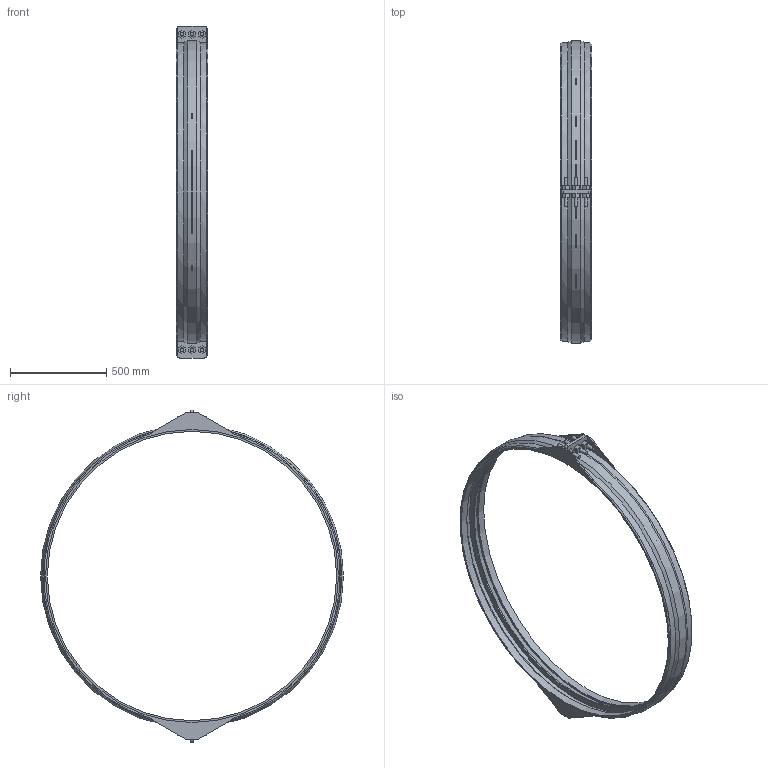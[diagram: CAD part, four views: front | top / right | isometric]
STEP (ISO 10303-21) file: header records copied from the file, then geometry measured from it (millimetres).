
FILE_DESCRIPTION(/* description */ ('VIC SS RESTRAINED COUPLING STYLE 234S (FLEX) (BRS)','CAx-IF Rec.Pracs.---Representation and Presentation of Product Manufacturing Information (PMI)---4.0---2014-10-13'),/* implementation_level */ '2;1');
FILE_NAME(/* name */ 'C:\Users\kkamble\AppData\Roaming\Autodesk\ApplicationPlugins\Back Up\Victaulic_VBSP_Coupling Flexible Restrained_Style 234S (BRS)\Victaulic_VBSP_Coupling Flexible Restrained_Style 234S (BRS)_50psi_60 (1500).stp',/* time_stamp */ '2020-09-22T18:42:37+05:00',/* author */ ('Vjadhav'),/* organization */ ('Victaulic'),/* preprocessor_version */ 'ST-DEVELOPER v17.2',/* originating_system */ 'Autodesk Inventor 2019',/* authorisation */ '');
FILE_SCHEMA (('AP242_MANAGED_MODEL_BASED_3D_ENGINEERING_MIM_LF { 1 0 10303 442 1 1 4 }'));
Length unit declared in the file: inch
Products named in the file (1): Style_234S_Type_2_50psi-60.0
Bounding box: 165.1 x 1575.3 x 1727.2 mm (x, y, z)
Volume: 10960634.6 mm3; surface area: 2389547.4 mm2
Topology: 1 solids, 1 shells, 191 faces, 477 edges, 316 vertices
Faces by surface type: plane 136, cylinder 43, torus 6, cone 6
Full cylindrical faces by diameter (mm): 19.05 x12, 1504.95 x1, 1524 x2, 1562.603 x2
Entity records: 6146 total; most frequent: CARTESIAN_POINT 1138, DIRECTION 997, ORIENTED_EDGE 954, EDGE_CURVE 477, LINE 351, VECTOR 351, AXIS2_PLACEMENT_3D 323, VERTEX_POINT 316
